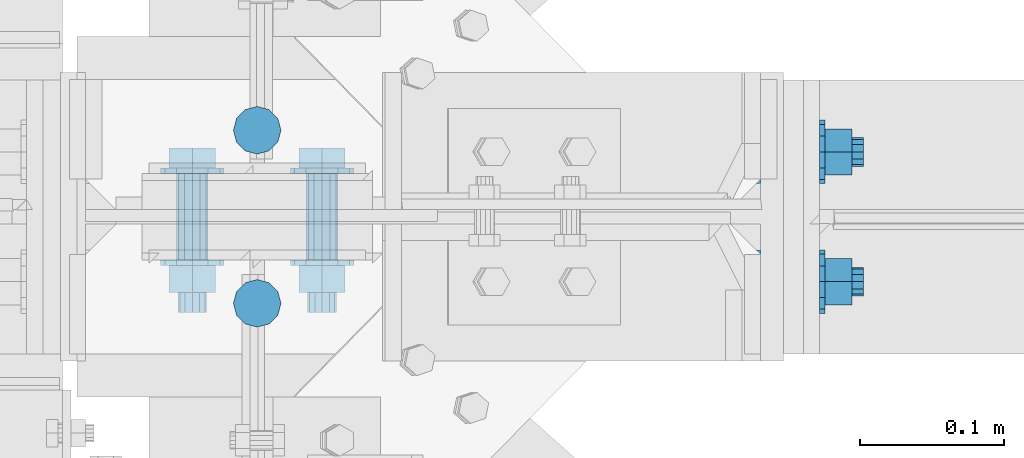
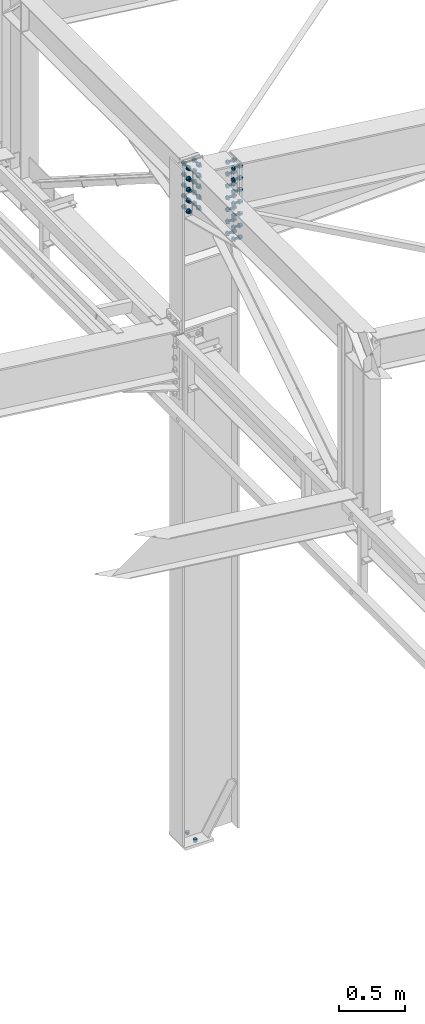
# One storey, part 253 of 3134: 3 mechanical fasteners, 3 elements without a shape of their own.
"""IFC2X3 building model written with IfcOpenShell, lengths in millimetres."""

from ifc_helpers import new_model, si_unit, frame, origin_with_axes, place, context, subcontext, project, spatial, faceted_brep, source, transform, mapped, material, type_object, element, aggregate, save


model = new_model("IFC2X3")

# Units and contexts
model_context = context("Model", 3, precision=1e-05, world=origin_with_axes())
body_context = subcontext(model_context, "Body", "Model", "MODEL_VIEW")
ifc_project = project(units=[si_unit("LENGTHUNIT", "METRE", prefix="MILLI"), si_unit("AREAUNIT", "SQUARE_METRE"), si_unit("VOLUMEUNIT", "CUBIC_METRE"), si_unit("MASSUNIT", "GRAM", prefix="KILO"), si_unit("TIMEUNIT", "SECOND"), si_unit("PLANEANGLEUNIT", "RADIAN"), si_unit("SOLIDANGLEUNIT", "STERADIAN"), si_unit("THERMODYNAMICTEMPERATUREUNIT", "DEGREE_CELSIUS"), si_unit("LUMINOUSINTENSITYUNIT", "LUMEN")], contexts=[model_context])

# Site, building, storey
site_placement = place(None, origin_with_axes())
site = spatial("IfcSite", under=ifc_project, at=site_placement, CompositionType="ELEMENT")
building_placement = place(site_placement, origin_with_axes())
building = spatial("IfcBuilding", under=site, at=building_placement, Name="Undefined", CompositionType="ELEMENT")
storey_placement = place(building_placement, origin_with_axes())
storey = spatial("IfcBuildingStorey", under=building, at=storey_placement, Name="Undefined", CompositionType="ELEMENT", Elevation=0.0)

# Assembly, mechanical fastener
assembly_1_placement = place(storey_placement, origin_with_axes())
assembly_1 = element("IfcElementAssembly", 1, at=assembly_1_placement, inside=storey, Name="IPE450", AssemblyPlace="NOTDEFINED", PredefinedType="RIGID_FRAME")
ifc_material_1 = material(Name="HR10.9")
mechanical_fastener_type = type_object("IfcMechanicalFastenerType", Name="Bolt assembly")
shared_shape_1 = source(origin_with_axes(), body_context, "Body", "Brep", [
    faceted_brep([(18.475208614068, -33.599999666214, 0.0), (9.23760430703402, -33.599999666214, 16.0), (-9.23760430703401, -33.599999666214, 16.0), (-18.475208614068, -33.599999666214, 2.2625605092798e-15), (-9.23760430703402, -33.599999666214, -16.0), (9.237604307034, -33.599999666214, -16.0), (9.237604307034, -19.7000000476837, -16.0), (-9.23760430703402, -19.7000000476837, -16.0), (-18.475208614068, -19.7000000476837, 2.2625605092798e-15), (-9.23760430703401, -19.7000000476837, 16.0), (9.23760430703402, -19.7000000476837, 16.0), (18.475208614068, -19.7000000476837, 0.0), (10.0, -19.7000000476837, 0.0), (8.66025403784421, -19.7000000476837, 5.0000000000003), (4.9999999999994, -19.7000000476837, 8.66025403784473), (-1.03633598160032e-12, -19.7000000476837, 10.0), (-5.00000000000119, -19.7000000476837, 8.6602540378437), (-8.66025403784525, -19.7000000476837, 4.99999999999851), (-10.0, -19.7000000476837, -2.07267196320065e-12), (-8.66025403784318, -19.7000000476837, -5.00000000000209), (-4.99999999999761, -19.7000000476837, -8.66025403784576), (3.09790571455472e-12, -19.7000000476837, -10.0), (5.00000000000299, -19.7000000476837, -8.66025403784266), (8.66025403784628, -19.7000000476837, -4.99999999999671), (8.66025403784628, 55.2999999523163, -4.99999999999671), (5.00000000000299, 55.2999999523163, -8.66025403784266), (3.09790571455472e-12, 55.2999999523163, -10.0), (-4.99999999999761, 55.2999999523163, -8.66025403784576), (-8.66025403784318, 55.2999999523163, -5.00000000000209), (-10.0, 55.2999999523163, -2.07267196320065e-12), (-8.66025403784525, 55.2999999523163, 4.99999999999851), (-5.00000000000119, 55.2999999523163, 8.6602540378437), (-1.03633598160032e-12, 55.2999999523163, 10.0), (4.9999999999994, 55.2999999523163, 8.66025403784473), (8.66025403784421, 55.2999999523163, 5.0000000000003), (10.0, 55.2999999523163, 0.0), (22.0, -19.7000000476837, 0.0), (19.0525588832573, -19.7000000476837, 11.0000000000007), (10.9999999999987, -19.7000000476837, 19.0525588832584), (-2.27993915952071e-12, -19.7000000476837, 22.0), (-11.0000000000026, -19.7000000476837, 19.0525588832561), (-19.0525588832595, -19.7000000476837, 10.9999999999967), (-22.0, -19.7000000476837, -4.55987831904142e-12), (-19.052558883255, -19.7000000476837, -11.0000000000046), (-10.9999999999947, -19.7000000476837, -19.0525588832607), (6.81539257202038e-12, -19.7000000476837, -22.0), (11.0000000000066, -19.7000000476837, -19.0525588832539), (19.0525588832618, -19.7000000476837, -10.9999999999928), (19.0525588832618, -16.0, -10.9999999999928), (11.0000000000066, -16.0, -19.0525588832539), (6.81539257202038e-12, -16.0, -22.0), (-10.9999999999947, -16.0, -19.0525588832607), (-19.052558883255, -16.0, -11.0000000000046), (-22.0, -16.0, -4.55987831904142e-12), (-19.0525588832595, -16.0, 10.9999999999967), (-11.0000000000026, -16.0, 19.0525588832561), (-2.27993915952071e-12, -16.0, 22.0), (10.9999999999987, -16.0, 19.0525588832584), (19.0525588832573, -16.0, 11.0000000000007), (22.0, -16.0, 0.0), (22.0, 25.0, 0.0), (19.0525588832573, 25.0, 11.0000000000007), (10.9999999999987, 25.0, 19.0525588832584), (-2.27993915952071e-12, 25.0, 22.0), (-11.0000000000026, 25.0, 19.0525588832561), (-19.0525588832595, 25.0, 10.9999999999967), (-22.0, 25.0, -4.55987831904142e-12), (-19.052558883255, 25.0, -11.0000000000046), (-10.9999999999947, 25.0, -19.0525588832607), (6.81539257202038e-12, 25.0, -22.0), (11.0000000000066, 25.0, -19.0525588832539), (19.0525588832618, 25.0, -10.9999999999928), (19.0525588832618, 28.7000000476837, -10.9999999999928), (11.0000000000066, 28.7000000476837, -19.0525588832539), (6.81539257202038e-12, 28.7000000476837, -22.0), (-10.9999999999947, 28.7000000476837, -19.0525588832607), (-19.052558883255, 28.7000000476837, -11.0000000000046), (-22.0, 28.7000000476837, -4.55987831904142e-12), (-19.0525588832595, 28.7000000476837, 10.9999999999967), (-11.0000000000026, 28.7000000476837, 19.0525588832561), (-2.27993915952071e-12, 28.7000000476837, 22.0), (10.9999999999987, 28.7000000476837, 19.0525588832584), (19.0525588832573, 28.7000000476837, 11.0000000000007), (22.0, 28.7000000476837, 0.0), (18.475208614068, 28.7000000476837, 0.0), (9.23760430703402, 28.7000000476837, 16.0), (-9.23760430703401, 28.7000000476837, 16.0), (-18.475208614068, 28.7000000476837, 2.2625605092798e-15), (-9.23760430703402, 28.7000000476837, -16.0), (9.237604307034, 28.7000000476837, -16.0), (9.237604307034, 47.2499992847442, -16.0), (-9.23760430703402, 47.2499992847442, -16.0), (-18.475208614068, 47.2499992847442, 2.2625605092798e-15), (-9.23760430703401, 47.2499992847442, 16.0), (9.23760430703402, 47.2499992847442, 16.0), (18.475208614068, 47.2499992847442, 0.0)], [[[0, 1, 2, 3, 4, 5]], [[6, 7, 8, 9, 10, 11]], [[0, 11, 10, 1]], [[1, 10, 9, 2]], [[2, 9, 8, 3]], [[3, 8, 7, 4]], [[4, 7, 6, 5]], [[5, 6, 11, 0]], [[12, 13, 14, 15, 16, 17, 18, 19, 20, 21, 22, 23]], [[24, 25, 26, 27, 28, 29, 30, 31, 32, 33, 34, 35]], [[12, 35, 34, 13]], [[13, 34, 33, 14]], [[14, 33, 32, 15]], [[15, 32, 31, 16]], [[16, 31, 30, 17]], [[17, 30, 29, 18]], [[18, 29, 28, 19]], [[19, 28, 27, 20]], [[20, 27, 26, 21]], [[21, 26, 25, 22]], [[22, 25, 24, 23]], [[23, 24, 35, 12]], [[36, 37, 38, 39, 40, 41, 42, 43, 44, 45, 46, 47]], [[48, 49, 50, 51, 52, 53, 54, 55, 56, 57, 58, 59]], [[36, 59, 58, 37]], [[37, 58, 57, 38]], [[38, 57, 56, 39]], [[39, 56, 55, 40]], [[40, 55, 54, 41]], [[41, 54, 53, 42]], [[42, 53, 52, 43]], [[43, 52, 51, 44]], [[44, 51, 50, 45]], [[45, 50, 49, 46]], [[46, 49, 48, 47]], [[47, 48, 59, 36]], [[60, 61, 62, 63, 64, 65, 66, 67, 68, 69, 70, 71]], [[72, 73, 74, 75, 76, 77, 78, 79, 80, 81, 82, 83]], [[60, 83, 82, 61]], [[61, 82, 81, 62]], [[62, 81, 80, 63]], [[63, 80, 79, 64]], [[64, 79, 78, 65]], [[65, 78, 77, 66]], [[66, 77, 76, 67]], [[67, 76, 75, 68]], [[68, 75, 74, 69]], [[69, 74, 73, 70]], [[70, 73, 72, 71]], [[71, 72, 83, 60]], [[84, 85, 86, 87, 88, 89]], [[90, 91, 92, 93, 94, 95]], [[84, 95, 94, 85]], [[85, 94, 93, 86]], [[86, 93, 92, 87]], [[87, 92, 91, 88]], [[88, 91, 90, 89]], [[89, 90, 95, 84]]]),
    faceted_brep([(11.0, -15.9, 0.0), (9.52627944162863, -15.9, 5.50000000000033), (5.49999999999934, -15.9, 9.5262794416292), (-1.13996957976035e-12, -15.9, 11.0), (-5.50000000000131, -15.9, 9.52627944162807), (-9.52627944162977, -15.9, 5.49999999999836), (-11.0, -15.9, -2.27993915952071e-12), (-9.5262794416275, -15.9, -5.5000000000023), (-5.49999999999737, -15.9, -9.52627944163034), (3.40769628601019e-12, -15.9, -11.0), (5.50000000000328, -15.9, -9.52627944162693), (9.52627944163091, -15.9, -5.49999999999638), (9.52627944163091, 0.0999999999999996, -5.49999999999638), (5.50000000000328, 0.0999999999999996, -9.52627944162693), (3.40769628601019e-12, 0.0999999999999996, -11.0), (-5.49999999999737, 0.0999999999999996, -9.52627944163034), (-9.5262794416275, 0.0999999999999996, -5.5000000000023), (-11.0, 0.0999999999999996, -2.27993915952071e-12), (-9.52627944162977, 0.0999999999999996, 5.49999999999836), (-5.50000000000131, 0.0999999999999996, 9.52627944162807), (-1.13996957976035e-12, 0.0999999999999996, 11.0), (5.49999999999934, 0.0999999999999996, 9.5262794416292), (9.52627944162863, 0.0999999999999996, 5.50000000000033), (11.0, 0.0999999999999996, 0.0), (11.0, -0.1, 0.0), (9.52627944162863, -0.1, 5.50000000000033), (5.49999999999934, -0.1, 9.5262794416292), (-1.13996957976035e-12, -0.1, 11.0), (-5.50000000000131, -0.1, 9.52627944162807), (-9.52627944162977, -0.1, 5.49999999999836), (-11.0, -0.1, -2.27993915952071e-12), (-9.5262794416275, -0.1, -5.5000000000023), (-5.49999999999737, -0.1, -9.52627944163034), (3.40769628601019e-12, -0.1, -11.0), (5.50000000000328, -0.1, -9.52627944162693), (9.52627944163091, -0.1, -5.49999999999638), (9.52627944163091, 25.0, -5.49999999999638), (5.50000000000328, 25.0, -9.52627944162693), (3.40769628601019e-12, 25.0, -11.0), (-5.49999999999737, 25.0, -9.52627944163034), (-9.5262794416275, 25.0, -5.5000000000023), (-11.0, 25.0, -2.27993915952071e-12), (-9.52627944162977, 25.0, 5.49999999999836), (-5.50000000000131, 25.0, 9.52627944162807), (-1.13996957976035e-12, 25.0, 11.0), (5.49999999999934, 25.0, 9.5262794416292), (9.52627944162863, 25.0, 5.50000000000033), (11.0, 25.0, 0.0)], [[[0, 1, 2, 3, 4, 5, 6, 7, 8, 9, 10, 11]], [[12, 13, 14, 15, 16, 17, 18, 19, 20, 21, 22, 23]], [[0, 23, 22, 1]], [[1, 22, 21, 2]], [[2, 21, 20, 3]], [[3, 20, 19, 4]], [[4, 19, 18, 5]], [[5, 18, 17, 6]], [[6, 17, 16, 7]], [[7, 16, 15, 8]], [[8, 15, 14, 9]], [[9, 14, 13, 10]], [[10, 13, 12, 11]], [[11, 12, 23, 0]], [[24, 25, 26, 27, 28, 29, 30, 31, 32, 33, 34, 35]], [[36, 37, 38, 39, 40, 41, 42, 43, 44, 45, 46, 47]], [[24, 47, 46, 25]], [[25, 46, 45, 26]], [[26, 45, 44, 27]], [[27, 44, 43, 28]], [[28, 43, 42, 29]], [[29, 42, 41, 30]], [[30, 41, 40, 31]], [[31, 40, 39, 32]], [[32, 39, 38, 33]], [[33, 38, 37, 34]], [[34, 37, 36, 35]], [[35, 36, 47, 24]]]),
])
mechanical_fastener_1_placement = place(assembly_1_placement, frame((44565.0, 40250.0, 5711.36541521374), z_axis=(0.0, -1.0, 0.0), x_axis=(0.0, 0.0, -1.0)))
mechanical_fastener_1 = element("IfcMechanicalFastener", 2, at=mechanical_fastener_1_placement, type_object=mechanical_fastener_type, material=ifc_material_1, Name="Bolt assembly", NominalDiameter=20.0, NominalLength=75.0, context=body_context, shape_type="MappedRepresentation", body=[
    mapped(shared_shape_1, transform((0.0, 0.0, -45.0))),
    mapped(shared_shape_1, transform((0.0, 0.0, 45.0))),
    mapped(shared_shape_1, transform((110.0, 0.0, -45.0))),
    mapped(shared_shape_1, transform((110.0, 0.0, 45.0))),
    mapped(shared_shape_1, transform((220.0, 0.0, -45.0))),
    mapped(shared_shape_1, transform((220.0, 0.0, 45.0))),
    mapped(shared_shape_1, transform((330.0, 0.0, -45.0))),
    mapped(shared_shape_1, transform((330.0, 0.0, 45.0))),
    mapped(shared_shape_1, transform((440.0, 0.0, -45.0))),
    mapped(shared_shape_1, transform((440.0, 0.0, 45.0))),
    mapped(shared_shape_1, transform((550.0, 0.0, -45.0))),
    mapped(shared_shape_1, transform((550.0, 0.0, 45.0))),
    mapped(shared_shape_1, transform((660.0, 0.0, -45.0))),
    mapped(shared_shape_1, transform((660.0, 0.0, 45.0))),
])
aggregate(assembly_1, [mechanical_fastener_1])

assembly_2_placement = place(storey_placement, origin_with_axes())
assembly_2 = element("IfcElementAssembly", 3, at=assembly_2_placement, inside=storey, Name="300", AssemblyPlace="NOTDEFINED", PredefinedType="RIGID_FRAME")
shared_shape_2 = source(origin_with_axes(), body_context, "Body", "Brep", [
    faceted_brep([(18.475208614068, -47.6999994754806, 0.0), (9.23760430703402, -47.6999994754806, 16.0), (-9.23760430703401, -47.6999994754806, 16.0), (-18.475208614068, -47.6999994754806, 2.2625605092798e-15), (-9.23760430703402, -47.6999994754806, -16.0), (9.237604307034, -47.6999994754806, -16.0), (9.237604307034, -33.7999998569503, -16.0), (-9.23760430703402, -33.7999998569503, -16.0), (-18.475208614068, -33.7999998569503, 2.2625605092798e-15), (-9.23760430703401, -33.7999998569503, 16.0), (9.23760430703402, -33.7999998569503, 16.0), (18.475208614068, -33.7999998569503, 0.0), (10.0, -33.7999998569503, 0.0), (8.66025403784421, -33.7999998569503, 5.0000000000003), (4.9999999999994, -33.7999998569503, 8.66025403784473), (-1.03633598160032e-12, -33.7999998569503, 10.0), (-5.00000000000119, -33.7999998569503, 8.6602540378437), (-8.66025403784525, -33.7999998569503, 4.99999999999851), (-10.0, -33.7999998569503, -2.07267196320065e-12), (-8.66025403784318, -33.7999998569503, -5.00000000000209), (-4.99999999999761, -33.7999998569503, -8.66025403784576), (3.09790571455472e-12, -33.7999998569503, -10.0), (5.00000000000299, -33.7999998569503, -8.66025403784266), (8.66025403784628, -33.7999998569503, -4.99999999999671), (8.66025403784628, 66.2000001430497, -4.99999999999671), (5.00000000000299, 66.2000001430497, -8.66025403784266), (3.09790571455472e-12, 66.2000001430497, -10.0), (-4.99999999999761, 66.2000001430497, -8.66025403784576), (-8.66025403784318, 66.2000001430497, -5.00000000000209), (-10.0, 66.2000001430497, -2.07267196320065e-12), (-8.66025403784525, 66.2000001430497, 4.99999999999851), (-5.00000000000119, 66.2000001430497, 8.6602540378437), (-1.03633598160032e-12, 66.2000001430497, 10.0), (4.9999999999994, 66.2000001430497, 8.66025403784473), (8.66025403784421, 66.2000001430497, 5.0000000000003), (10.0, 66.2000001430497, 0.0), (22.0, -33.7999998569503, 0.0), (19.0525588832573, -33.7999998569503, 11.0000000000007), (10.9999999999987, -33.7999998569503, 19.0525588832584), (-2.27993915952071e-12, -33.7999998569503, 22.0), (-11.0000000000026, -33.7999998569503, 19.0525588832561), (-19.0525588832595, -33.7999998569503, 10.9999999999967), (-22.0, -33.7999998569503, -4.55987831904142e-12), (-19.052558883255, -33.7999998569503, -11.0000000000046), (-10.9999999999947, -33.7999998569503, -19.0525588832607), (6.81539257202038e-12, -33.7999998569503, -22.0), (11.0000000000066, -33.7999998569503, -19.0525588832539), (19.0525588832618, -33.7999998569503, -10.9999999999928), (19.0525588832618, -30.0999998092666, -10.9999999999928), (11.0000000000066, -30.0999998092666, -19.0525588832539), (6.81539257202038e-12, -30.0999998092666, -22.0), (-10.9999999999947, -30.0999998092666, -19.0525588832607), (-19.052558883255, -30.0999998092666, -11.0000000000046), (-22.0, -30.0999998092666, -4.55987831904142e-12), (-19.0525588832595, -30.0999998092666, 10.9999999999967), (-11.0000000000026, -30.0999998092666, 19.0525588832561), (-2.27993915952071e-12, -30.0999998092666, 22.0), (10.9999999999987, -30.0999998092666, 19.0525588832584), (19.0525588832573, -30.0999998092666, 11.0000000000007), (22.0, -30.0999998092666, 0.0), (22.0, 30.0999999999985, 0.0), (19.0525588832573, 30.0999999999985, 11.0000000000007), (10.9999999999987, 30.0999999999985, 19.0525588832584), (-2.27993915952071e-12, 30.0999999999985, 22.0), (-11.0000000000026, 30.0999999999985, 19.0525588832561), (-19.0525588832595, 30.0999999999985, 10.9999999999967), (-22.0, 30.0999999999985, -4.55987831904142e-12), (-19.052558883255, 30.0999999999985, -11.0000000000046), (-10.9999999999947, 30.0999999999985, -19.0525588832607), (6.81539257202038e-12, 30.0999999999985, -22.0), (11.0000000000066, 30.0999999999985, -19.0525588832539), (19.0525588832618, 30.0999999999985, -10.9999999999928), (19.0525588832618, 33.8000000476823, -10.9999999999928), (11.0000000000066, 33.8000000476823, -19.0525588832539), (6.81539257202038e-12, 33.8000000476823, -22.0), (-10.9999999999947, 33.8000000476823, -19.0525588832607), (-19.052558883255, 33.8000000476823, -11.0000000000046), (-22.0, 33.8000000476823, -4.55987831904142e-12), (-19.0525588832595, 33.8000000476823, 10.9999999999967), (-11.0000000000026, 33.8000000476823, 19.0525588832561), (-2.27993915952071e-12, 33.8000000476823, 22.0), (10.9999999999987, 33.8000000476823, 19.0525588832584), (19.0525588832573, 33.8000000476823, 11.0000000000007), (22.0, 33.8000000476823, 0.0), (18.475208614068, 33.8000000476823, 0.0), (9.23760430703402, 33.8000000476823, 16.0), (-9.23760430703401, 33.8000000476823, 16.0), (-18.475208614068, 33.8000000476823, 2.2625605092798e-15), (-9.23760430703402, 33.8000000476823, -16.0), (9.237604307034, 33.8000000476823, -16.0), (9.237604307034, 52.3499992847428, -16.0), (-9.23760430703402, 52.3499992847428, -16.0), (-18.475208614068, 52.3499992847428, 2.2625605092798e-15), (-9.23760430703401, 52.3499992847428, 16.0), (9.23760430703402, 52.3499992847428, 16.0), (18.475208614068, 52.3499992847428, 0.0)], [[[0, 1, 2, 3, 4, 5]], [[6, 7, 8, 9, 10, 11]], [[0, 11, 10, 1]], [[1, 10, 9, 2]], [[2, 9, 8, 3]], [[3, 8, 7, 4]], [[4, 7, 6, 5]], [[5, 6, 11, 0]], [[12, 13, 14, 15, 16, 17, 18, 19, 20, 21, 22, 23]], [[24, 25, 26, 27, 28, 29, 30, 31, 32, 33, 34, 35]], [[12, 35, 34, 13]], [[13, 34, 33, 14]], [[14, 33, 32, 15]], [[15, 32, 31, 16]], [[16, 31, 30, 17]], [[17, 30, 29, 18]], [[18, 29, 28, 19]], [[19, 28, 27, 20]], [[20, 27, 26, 21]], [[21, 26, 25, 22]], [[22, 25, 24, 23]], [[23, 24, 35, 12]], [[36, 37, 38, 39, 40, 41, 42, 43, 44, 45, 46, 47]], [[48, 49, 50, 51, 52, 53, 54, 55, 56, 57, 58, 59]], [[36, 59, 58, 37]], [[37, 58, 57, 38]], [[38, 57, 56, 39]], [[39, 56, 55, 40]], [[40, 55, 54, 41]], [[41, 54, 53, 42]], [[42, 53, 52, 43]], [[43, 52, 51, 44]], [[44, 51, 50, 45]], [[45, 50, 49, 46]], [[46, 49, 48, 47]], [[47, 48, 59, 36]], [[60, 61, 62, 63, 64, 65, 66, 67, 68, 69, 70, 71]], [[72, 73, 74, 75, 76, 77, 78, 79, 80, 81, 82, 83]], [[60, 83, 82, 61]], [[61, 82, 81, 62]], [[62, 81, 80, 63]], [[63, 80, 79, 64]], [[64, 79, 78, 65]], [[65, 78, 77, 66]], [[66, 77, 76, 67]], [[67, 76, 75, 68]], [[68, 75, 74, 69]], [[69, 74, 73, 70]], [[70, 73, 72, 71]], [[71, 72, 83, 60]], [[84, 85, 86, 87, 88, 89]], [[90, 91, 92, 93, 94, 95]], [[84, 95, 94, 85]], [[85, 94, 93, 86]], [[86, 93, 92, 87]], [[87, 92, 91, 88]], [[88, 91, 90, 89]], [[89, 90, 95, 84]]]),
    faceted_brep([(11.0, -5.09999980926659, 0.0), (9.52627944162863, -5.09999980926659, 5.50000000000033), (5.49999999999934, -5.09999980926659, 9.5262794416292), (-1.13996957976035e-12, -5.09999980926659, 11.0), (-5.50000000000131, -5.09999980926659, 9.52627944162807), (-9.52627944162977, -5.09999980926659, 5.49999999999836), (-11.0, -5.09999980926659, -2.27993915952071e-12), (-9.5262794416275, -5.09999980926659, -5.5000000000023), (-5.49999999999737, -5.09999980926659, -9.52627944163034), (3.40769628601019e-12, -5.09999980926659, -11.0), (5.50000000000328, -5.09999980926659, -9.52627944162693), (9.52627944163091, -5.09999980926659, -5.49999999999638), (9.52627944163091, 5.09999999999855, -5.49999999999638), (5.50000000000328, 5.09999999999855, -9.52627944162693), (3.40769628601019e-12, 5.09999999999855, -11.0), (-5.49999999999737, 5.09999999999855, -9.52627944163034), (-9.5262794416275, 5.09999999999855, -5.5000000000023), (-11.0, 5.09999999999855, -2.27993915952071e-12), (-9.52627944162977, 5.09999999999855, 5.49999999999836), (-5.50000000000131, 5.09999999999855, 9.52627944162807), (-1.13996957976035e-12, 5.09999999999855, 11.0), (5.49999999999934, 5.09999999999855, 9.5262794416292), (9.52627944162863, 5.09999999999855, 5.50000000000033), (11.0, 5.09999999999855, 0.0), (11.0, -29.9999998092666, 0.0), (9.52627944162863, -29.9999998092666, 5.50000000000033), (5.49999999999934, -29.9999998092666, 9.5262794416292), (-1.13996957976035e-12, -29.9999998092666, 11.0), (-5.50000000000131, -29.9999998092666, 9.52627944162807), (-9.52627944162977, -29.9999998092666, 5.49999999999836), (-11.0, -29.9999998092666, -2.27993915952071e-12), (-9.5262794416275, -29.9999998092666, -5.5000000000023), (-5.49999999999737, -29.9999998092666, -9.52627944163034), (3.40769628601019e-12, -29.9999998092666, -11.0), (5.50000000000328, -29.9999998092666, -9.52627944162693), (9.52627944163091, -29.9999998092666, -5.49999999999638), (9.52627944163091, -4.99999980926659, -5.49999999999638), (5.50000000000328, -4.99999980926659, -9.52627944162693), (3.40769628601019e-12, -4.99999980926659, -11.0), (-5.49999999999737, -4.99999980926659, -9.52627944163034), (-9.5262794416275, -4.99999980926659, -5.5000000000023), (-11.0, -4.99999980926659, -2.27993915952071e-12), (-9.52627944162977, -4.99999980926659, 5.49999999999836), (-5.50000000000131, -4.99999980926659, 9.52627944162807), (-1.13996957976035e-12, -4.99999980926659, 11.0), (5.49999999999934, -4.99999980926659, 9.5262794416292), (9.52627944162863, -4.99999980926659, 5.50000000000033), (11.0, -4.99999980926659, 0.0), (11.0, 4.99999999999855, 0.0), (9.52627944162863, 4.99999999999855, 5.50000000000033), (5.49999999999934, 4.99999999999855, 9.5262794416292), (-1.13996957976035e-12, 4.99999999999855, 11.0), (-5.50000000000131, 4.99999999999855, 9.52627944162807), (-9.52627944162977, 4.99999999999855, 5.49999999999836), (-11.0, 4.99999999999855, -2.27993915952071e-12), (-9.5262794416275, 4.99999999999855, -5.5000000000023), (-5.49999999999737, 4.99999999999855, -9.52627944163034), (3.40769628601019e-12, 4.99999999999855, -11.0), (5.50000000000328, 4.99999999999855, -9.52627944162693), (9.52627944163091, 4.99999999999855, -5.49999999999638), (9.52627944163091, 30.0999999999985, -5.49999999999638), (5.50000000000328, 30.0999999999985, -9.52627944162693), (3.40769628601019e-12, 30.0999999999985, -11.0), (-5.49999999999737, 30.0999999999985, -9.52627944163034), (-9.5262794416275, 30.0999999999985, -5.5000000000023), (-11.0, 30.0999999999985, -2.27993915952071e-12), (-9.52627944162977, 30.0999999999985, 5.49999999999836), (-5.50000000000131, 30.0999999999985, 9.52627944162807), (-1.13996957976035e-12, 30.0999999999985, 11.0), (5.49999999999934, 30.0999999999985, 9.5262794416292), (9.52627944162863, 30.0999999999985, 5.50000000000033), (11.0, 30.0999999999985, 0.0)], [[[0, 1, 2, 3, 4, 5, 6, 7, 8, 9, 10, 11]], [[12, 13, 14, 15, 16, 17, 18, 19, 20, 21, 22, 23]], [[0, 23, 22, 1]], [[1, 22, 21, 2]], [[2, 21, 20, 3]], [[3, 20, 19, 4]], [[4, 19, 18, 5]], [[5, 18, 17, 6]], [[6, 17, 16, 7]], [[7, 16, 15, 8]], [[8, 15, 14, 9]], [[9, 14, 13, 10]], [[10, 13, 12, 11]], [[11, 12, 23, 0]], [[24, 25, 26, 27, 28, 29, 30, 31, 32, 33, 34, 35]], [[36, 37, 38, 39, 40, 41, 42, 43, 44, 45, 46, 47]], [[24, 47, 46, 25]], [[25, 46, 45, 26]], [[26, 45, 44, 27]], [[27, 44, 43, 28]], [[28, 43, 42, 29]], [[29, 42, 41, 30]], [[30, 41, 40, 31]], [[31, 40, 39, 32]], [[32, 39, 38, 33]], [[33, 38, 37, 34]], [[34, 37, 36, 35]], [[35, 36, 47, 24]], [[48, 49, 50, 51, 52, 53, 54, 55, 56, 57, 58, 59]], [[60, 61, 62, 63, 64, 65, 66, 67, 68, 69, 70, 71]], [[48, 71, 70, 49]], [[49, 70, 69, 50]], [[50, 69, 68, 51]], [[51, 68, 67, 52]], [[52, 67, 66, 53]], [[53, 66, 65, 54]], [[54, 65, 64, 55]], [[55, 64, 63, 56]], [[56, 63, 62, 57]], [[57, 62, 61, 58]], [[58, 61, 60, 59]], [[59, 60, 71, 48]]]),
])
mechanical_fastener_2_placement = place(assembly_2_placement, frame((44200.0, 40250.0000000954, 5841.5), z_axis=(-1.0, 0.0, 0.0), x_axis=(0.0, 0.0, -1.0)))
mechanical_fastener_2 = element("IfcMechanicalFastener", 4, at=mechanical_fastener_2_placement, type_object=mechanical_fastener_type, material=ifc_material_1, Name="Bolt assembly", NominalDiameter=20.0, NominalLength=100.0, context=body_context, shape_type="MappedRepresentation", body=[
    mapped(shared_shape_2, transform((0.0, 0.0, -45.0))),
    mapped(shared_shape_2, transform((100.0, 0.0, -45.0))),
    mapped(shared_shape_2, transform((200.0, 0.0, -45.0))),
    mapped(shared_shape_2, transform((300.0, 0.0, -45.0))),
    mapped(shared_shape_2, transform((400.0, 0.0, -45.0))),
    mapped(shared_shape_2, transform((0.0, 0.0, 45.0))),
    mapped(shared_shape_2, transform((100.0, 0.0, 45.0))),
    mapped(shared_shape_2, transform((200.0, 0.0, 45.0))),
    mapped(shared_shape_2, transform((300.0, 0.0, 45.0))),
    mapped(shared_shape_2, transform((400.0, 0.0, 45.0))),
])
aggregate(assembly_2, [mechanical_fastener_2])

assembly_3_placement = place(storey_placement, origin_with_axes())
assembly_3 = element("IfcElementAssembly", 5, at=assembly_3_placement, inside=storey, Name="IPE500", AssemblyPlace="NOTDEFINED", PredefinedType="RIGID_FRAME")
ifc_material_2 = material(Name="8.8")
shared_shape_3 = source(origin_with_axes(), body_context, "Body", "Brep", [
    faceted_brep([(16.5, -25.0, 0.0), (14.289419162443, -25.0, 8.25000000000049), (8.24999999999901, -25.0, 14.2894191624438), (-1.70995436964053e-12, -25.0, 16.5), (-8.25000000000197, -25.0, 14.2894191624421), (-14.2894191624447, -25.0, 8.24999999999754), (-16.5, -25.0, -3.41990873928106e-12), (-14.2894191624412, -25.0, -8.25000000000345), (-8.24999999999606, -25.0, -14.2894191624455), (5.11154442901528e-12, -25.0, -16.5), (8.25000000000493, -25.0, -14.2894191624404), (14.2894191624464, -25.0, -8.24999999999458), (14.2894191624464, 0.1, -8.24999999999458), (8.25000000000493, 0.1, -14.2894191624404), (5.11154442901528e-12, 0.1, -16.5), (-8.24999999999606, 0.1, -14.2894191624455), (-14.2894191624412, 0.1, -8.25000000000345), (-16.5, 0.1, -3.41990873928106e-12), (-14.2894191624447, 0.1, 8.24999999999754), (-8.25000000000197, 0.1, 14.2894191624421), (-1.70995436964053e-12, 0.1, 16.5), (8.24999999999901, 0.1, 14.2894191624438), (14.289419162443, 0.1, 8.25000000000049), (16.5, 0.1, 0.0)], [[[0, 1, 2, 3, 4, 5, 6, 7, 8, 9, 10, 11]], [[12, 13, 14, 15, 16, 17, 18, 19, 20, 21, 22, 23]], [[0, 23, 22, 1]], [[1, 22, 21, 2]], [[2, 21, 20, 3]], [[3, 20, 19, 4]], [[4, 19, 18, 5]], [[5, 18, 17, 6]], [[6, 17, 16, 7]], [[7, 16, 15, 8]], [[8, 15, 14, 9]], [[9, 14, 13, 10]], [[10, 13, 12, 11]], [[11, 12, 23, 0]]]),
])
mechanical_fastener_3_placement = place(assembly_3_placement, frame((44680.0, 40250.0000000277, -375.0), z_axis=(0.0, 1.0, 0.0), x_axis=(-1.0, 0.0, 0.0)))
mechanical_fastener_3 = element("IfcMechanicalFastener", 6, at=mechanical_fastener_3_placement, type_object=mechanical_fastener_type, material=ifc_material_2, Name="Bolt assembly", NominalDiameter=30.0, NominalLength=25.0, context=body_context, shape_type="MappedRepresentation", body=[
    mapped(shared_shape_3, transform((480.0, 0.0, -60.0))),
    mapped(shared_shape_3, transform((480.0, 0.0, 60.0))),
])
aggregate(assembly_3, [mechanical_fastener_3])

save(model, "model.ifc")
